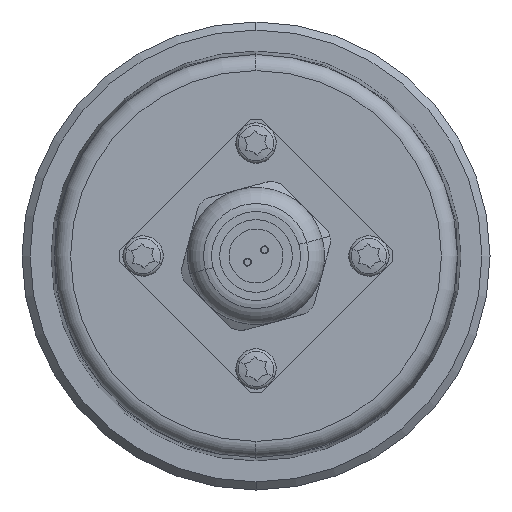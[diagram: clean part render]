
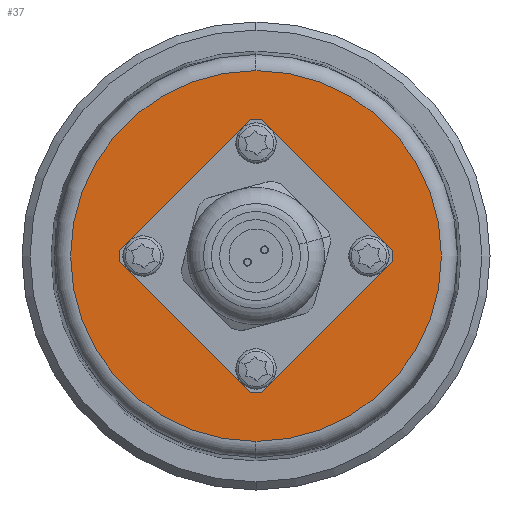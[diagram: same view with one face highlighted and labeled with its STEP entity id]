
A CAD part, left-side view. The second image highlights one B-rep face of the part: STEP entity #37.
In plain terms, the highlighted planar face has unit normal (-1, 0, 0).
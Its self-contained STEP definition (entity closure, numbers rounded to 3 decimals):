
#14 = ORIENTED_EDGE ( 'NONE', *, *, #2488, .T. ) ;
#15 = EDGE_LOOP ( 'NONE', ( #14, #2285 ) ) ;
#17 = VERTEX_POINT ( 'NONE', #287 ) ;
#18 = EDGE_CURVE ( 'NONE', #17, #29, #286, .T. ) ;
#19 = VERTEX_POINT ( 'NONE', #281 ) ;
#20 = VERTEX_POINT ( 'NONE', #280 ) ;
#21 = EDGE_CURVE ( 'NONE', #20, #19, #279, .T. ) ;
#22 = VERTEX_POINT ( 'NONE', #274 ) ;
#23 = EDGE_CURVE ( 'NONE', #24, #22, #273, .T. ) ;
#24 = VERTEX_POINT ( 'NONE', #268 ) ;
#25 = EDGE_CURVE ( 'NONE', #22, #24, #266, .T. ) ;
#26 = ORIENTED_EDGE ( 'NONE', *, *, #21, .T. ) ;
#27 = ORIENTED_EDGE ( 'NONE', *, *, #18, .T. ) ;
#28 = EDGE_CURVE ( 'NONE', #19, #20, #326, .T. ) ;
#29 = VERTEX_POINT ( 'NONE', #322 ) ;
#35 = EDGE_LOOP ( 'NONE', ( #2719, #44 ) ) ;
#37 = ADVANCED_FACE ( 'NONE', ( #310, #309, #308, #307, #306, #305 ), #357, .F. ) ;
#44 = ORIENTED_EDGE ( 'NONE', *, *, #23, .T. ) ;
#146 = ORIENTED_EDGE ( 'NONE', *, *, #150, .F. ) ;
#147 = VERTEX_POINT ( 'NONE', #539 ) ;
#150 = EDGE_CURVE ( 'NONE', #147, #2476, #537, .T. ) ;
#262 = DIRECTION ( 'NONE',  ( 0., 0., -1. ) ) ;
#263 = DIRECTION ( 'NONE',  ( 1., 0., 0. ) ) ;
#264 = CARTESIAN_POINT ( 'NONE',  ( -21., 0., -14.001 ) ) ;
#265 = AXIS2_PLACEMENT_3D ( 'NONE', #264, #263, #262 ) ;
#266 = CIRCLE ( 'NONE', #265, 1.389 ) ;
#267 = CARTESIAN_POINT ( 'NONE',  ( -21., -14.001, 0. ) ) ;
#268 = CARTESIAN_POINT ( 'NONE',  ( -21., 0., -12.612 ) ) ;
#269 = DIRECTION ( 'NONE',  ( 0., 0., -1. ) ) ;
#270 = DIRECTION ( 'NONE',  ( 1., 0., 0. ) ) ;
#271 = CARTESIAN_POINT ( 'NONE',  ( -21., 0., -14.001 ) ) ;
#272 = AXIS2_PLACEMENT_3D ( 'NONE', #271, #270, #269 ) ;
#273 = CIRCLE ( 'NONE', #272, 1.389 ) ;
#274 = CARTESIAN_POINT ( 'NONE',  ( -21., 0., -15.389 ) ) ;
#275 = DIRECTION ( 'NONE',  ( 0., 0., -1. ) ) ;
#276 = DIRECTION ( 'NONE',  ( 1., 0., 0. ) ) ;
#277 = CARTESIAN_POINT ( 'NONE',  ( -21., -14.001, 0. ) ) ;
#278 = AXIS2_PLACEMENT_3D ( 'NONE', #277, #276, #275 ) ;
#279 = CIRCLE ( 'NONE', #278, 1.389 ) ;
#280 = CARTESIAN_POINT ( 'NONE',  ( -21., -14.001, -1.389 ) ) ;
#281 = CARTESIAN_POINT ( 'NONE',  ( -21., -14.001, 1.389 ) ) ;
#282 = DIRECTION ( 'NONE',  ( 0., 0., -1. ) ) ;
#283 = DIRECTION ( 'NONE',  ( 1., 0., 0. ) ) ;
#284 = CARTESIAN_POINT ( 'NONE',  ( -21., 14.001, 0. ) ) ;
#285 = AXIS2_PLACEMENT_3D ( 'NONE', #284, #283, #282 ) ;
#286 = CIRCLE ( 'NONE', #285, 1.389 ) ;
#287 = CARTESIAN_POINT ( 'NONE',  ( -21., 14.001, -1.389 ) ) ;
#305 = FACE_BOUND ( 'NONE', #2279, .T. ) ;
#306 = FACE_OUTER_BOUND ( 'NONE', #2276, .T. ) ;
#307 = FACE_BOUND ( 'NONE', #15, .T. ) ;
#308 = FACE_BOUND ( 'NONE', #2412, .T. ) ;
#309 = FACE_BOUND ( 'NONE', #2720, .T. ) ;
#310 = FACE_BOUND ( 'NONE', #35, .T. ) ;
#322 = CARTESIAN_POINT ( 'NONE',  ( -21., 14.001, 1.389 ) ) ;
#323 = DIRECTION ( 'NONE',  ( 0., 0., -1. ) ) ;
#324 = DIRECTION ( 'NONE',  ( 1., 0., 0. ) ) ;
#325 = AXIS2_PLACEMENT_3D ( 'NONE', #267, #324, #323 ) ;
#326 = CIRCLE ( 'NONE', #325, 1.389 ) ;
#352 = DIRECTION ( 'NONE',  ( 0., 0., -1. ) ) ;
#353 = DIRECTION ( 'NONE',  ( 1., 0., 0. ) ) ;
#354 = CARTESIAN_POINT ( 'NONE',  ( -21., 0., 0. ) ) ;
#355 = AXIS2_PLACEMENT_3D ( 'NONE', #354, #353, #352 ) ;
#357 = PLANE ( 'NONE',  #355 ) ;
#533 = DIRECTION ( 'NONE',  ( 0., 0., 1. ) ) ;
#534 = DIRECTION ( 'NONE',  ( -1., 0., 0. ) ) ;
#535 = CARTESIAN_POINT ( 'NONE',  ( -21., 0., 0. ) ) ;
#536 = AXIS2_PLACEMENT_3D ( 'NONE', #535, #534, #533 ) ;
#537 = CIRCLE ( 'NONE', #536, 11.5 ) ;
#539 = CARTESIAN_POINT ( 'NONE',  ( -21., 0., -11.5 ) ) ;
#2276 = EDGE_LOOP ( 'NONE', ( #2293, #2280 ) ) ;
#2277 = ORIENTED_EDGE ( 'NONE', *, *, #2291, .F. ) ;
#2278 = VERTEX_POINT ( 'NONE', #7806 ) ;
#2279 = EDGE_LOOP ( 'NONE', ( #2277, #146 ) ) ;
#2280 = ORIENTED_EDGE ( 'NONE', *, *, #2822, .T. ) ;
#2281 = EDGE_CURVE ( 'NONE', #2292, #2278, #7805, .T. ) ;
#2285 = ORIENTED_EDGE ( 'NONE', *, *, #2281, .T. ) ;
#2290 = EDGE_CURVE ( 'NONE', #2820, #2823, #7787, .T. ) ;
#2291 = EDGE_CURVE ( 'NONE', #2476, #147, #7844, .T. ) ;
#2292 = VERTEX_POINT ( 'NONE', #7837 ) ;
#2293 = ORIENTED_EDGE ( 'NONE', *, *, #2290, .T. ) ;
#2408 = ORIENTED_EDGE ( 'NONE', *, *, #28, .T. ) ;
#2412 = EDGE_LOOP ( 'NONE', ( #27, #8039 ) ) ;
#2476 = VERTEX_POINT ( 'NONE', #8349 ) ;
#2488 = EDGE_CURVE ( 'NONE', #2278, #2292, #8379, .T. ) ;
#2719 = ORIENTED_EDGE ( 'NONE', *, *, #25, .T. ) ;
#2720 = EDGE_LOOP ( 'NONE', ( #26, #2408 ) ) ;
#2820 = VERTEX_POINT ( 'NONE', #8719 ) ;
#2822 = EDGE_CURVE ( 'NONE', #2823, #2820, #8717, .T. ) ;
#2823 = VERTEX_POINT ( 'NONE', #8712 ) ;
#7787 = CIRCLE ( 'NONE', #7848, 22.972 ) ;
#7801 = DIRECTION ( 'NONE',  ( 0., 0., -1. ) ) ;
#7802 = DIRECTION ( 'NONE',  ( 1., 0., 0. ) ) ;
#7803 = CARTESIAN_POINT ( 'NONE',  ( -21., 0., 14.001 ) ) ;
#7804 = AXIS2_PLACEMENT_3D ( 'NONE', #7803, #7802, #7801 ) ;
#7805 = CIRCLE ( 'NONE', #7804, 1.389 ) ;
#7806 = CARTESIAN_POINT ( 'NONE',  ( -21., 0., 12.612 ) ) ;
#7837 = CARTESIAN_POINT ( 'NONE',  ( -21., 0., 15.389 ) ) ;
#7838 = DIRECTION ( 'NONE',  ( 0., 0., 1. ) ) ;
#7841 = DIRECTION ( 'NONE',  ( -1., 0., 0. ) ) ;
#7842 = CARTESIAN_POINT ( 'NONE',  ( -21., 0., 0. ) ) ;
#7843 = AXIS2_PLACEMENT_3D ( 'NONE', #7842, #7841, #7838 ) ;
#7844 = CIRCLE ( 'NONE', #7843, 11.5 ) ;
#7845 = DIRECTION ( 'NONE',  ( 0., 0., -1. ) ) ;
#7846 = DIRECTION ( 'NONE',  ( -1., 0., 0. ) ) ;
#7847 = CARTESIAN_POINT ( 'NONE',  ( -21., 0., 0. ) ) ;
#7848 = AXIS2_PLACEMENT_3D ( 'NONE', #7847, #7846, #7845 ) ;
#8039 = ORIENTED_EDGE ( 'NONE', *, *, #8041, .T. ) ;
#8041 = EDGE_CURVE ( 'NONE', #29, #17, #9097, .T. ) ;
#8349 = CARTESIAN_POINT ( 'NONE',  ( -21., 0., 11.5 ) ) ;
#8375 = DIRECTION ( 'NONE',  ( 0., 0., -1. ) ) ;
#8376 = DIRECTION ( 'NONE',  ( 1., 0., 0. ) ) ;
#8377 = CARTESIAN_POINT ( 'NONE',  ( -21., 0., 14.001 ) ) ;
#8378 = AXIS2_PLACEMENT_3D ( 'NONE', #8377, #8376, #8375 ) ;
#8379 = CIRCLE ( 'NONE', #8378, 1.389 ) ;
#8712 = CARTESIAN_POINT ( 'NONE',  ( -21., 0., 22.972 ) ) ;
#8713 = DIRECTION ( 'NONE',  ( 0., 0., -1. ) ) ;
#8714 = DIRECTION ( 'NONE',  ( -1., 0., 0. ) ) ;
#8715 = CARTESIAN_POINT ( 'NONE',  ( -21., 0., 0. ) ) ;
#8716 = AXIS2_PLACEMENT_3D ( 'NONE', #8715, #8714, #8713 ) ;
#8717 = CIRCLE ( 'NONE', #8716, 22.972 ) ;
#8719 = CARTESIAN_POINT ( 'NONE',  ( -21., 0., -22.972 ) ) ;
#9093 = DIRECTION ( 'NONE',  ( 0., 0., -1. ) ) ;
#9094 = DIRECTION ( 'NONE',  ( 1., 0., 0. ) ) ;
#9095 = CARTESIAN_POINT ( 'NONE',  ( -21., 14.001, 0. ) ) ;
#9096 = AXIS2_PLACEMENT_3D ( 'NONE', #9095, #9094, #9093 ) ;
#9097 = CIRCLE ( 'NONE', #9096, 1.389 ) ;
